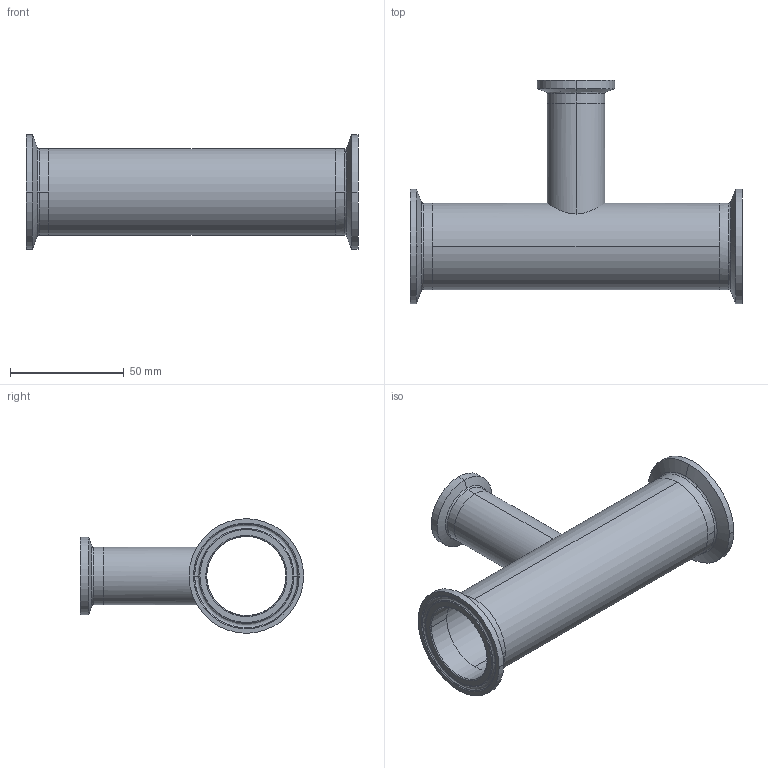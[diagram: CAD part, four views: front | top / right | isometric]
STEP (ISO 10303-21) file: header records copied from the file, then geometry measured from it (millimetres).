
FILE_DESCRIPTION (( 'STEP AP214' ), '1' );
FILE_NAME ('TEG7R6L1.5x1.0-..Type A.STEP', '2016-05-24T06:11:47', ( 'eran' ), ( '' ), 'SwSTEP 2.0', 'SolidWorks 2016', '' );
FILE_SCHEMA (( 'AUTOMOTIVE_DESIGN' ));
Length unit declared in the file: millimetre
Products named in the file (1): TEG7R6L1.5x1.0-..Type A
Bounding box: 146 x 98.2 x 50.39 mm (x, y, z)
Volume: 41429.4 mm3; surface area: 46697.2 mm2
Topology: 4 solids, 4 shells, 84 faces, 198 edges, 126 vertices
Faces by surface type: cylinder 28, bspline 28, cone 16, plane 12
Entity records: 4073 total; most frequent: CARTESIAN_POINT 2087, DIRECTION 426, ORIENTED_EDGE 396, EDGE_CURVE 198, AXIS2_PLACEMENT_3D 191, CIRCLE 134, VERTEX_POINT 126, EDGE_LOOP 98
